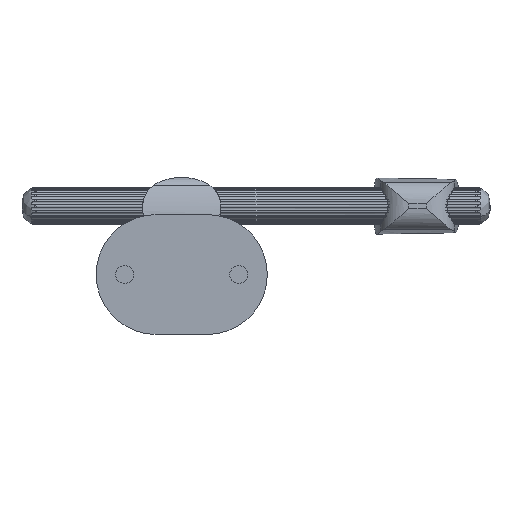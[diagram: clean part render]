
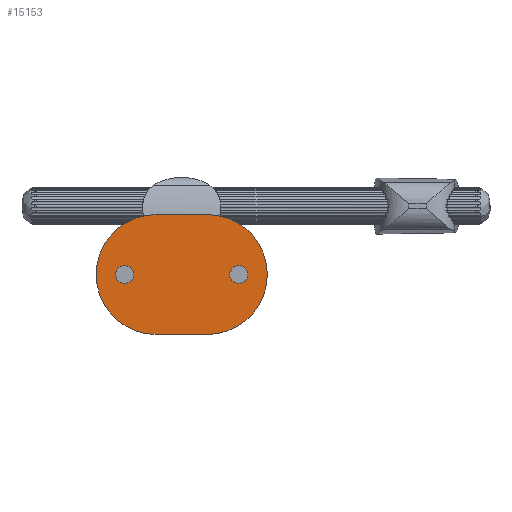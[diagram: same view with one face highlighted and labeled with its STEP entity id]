
A CAD part, front view. The second image highlights one B-rep face of the part: STEP entity #15153.
In plain terms, the highlighted planar face has unit normal (0, -1, 0).
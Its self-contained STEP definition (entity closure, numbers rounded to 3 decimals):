
#4215 = EDGE_LOOP ( 'NONE', ( #11610, #11717 ) ) ;
#4238 = EDGE_LOOP ( 'NONE', ( #11712, #11602 ) ) ;
#4245 = EDGE_LOOP ( 'NONE', ( #11682, #11688, #11708, #11716 ) ) ;
#4551 = AXIS2_PLACEMENT_3D ( 'NONE', #8647, #8648, #8649 ) ;
#4554 = AXIS2_PLACEMENT_3D ( 'NONE', #8641, #8642, #8643 ) ;
#4555 = AXIS2_PLACEMENT_3D ( 'NONE', #8634, #8635, #8636 ) ;
#4558 = AXIS2_PLACEMENT_3D ( 'NONE', #8630, #8631, #8632 ) ;
#5631 = CIRCLE ( 'NONE', #15723, 3.15 ) ;
#5637 = CIRCLE ( 'NONE', #16032, 3.15 ) ;
#6860 = CIRCLE ( 'NONE', #4558, 21. ) ;
#6872 = CIRCLE ( 'NONE', #4551, 3.15 ) ;
#6875 = LINE ( 'NONE', #8628, #6887 ) ;
#6877 = LINE ( 'NONE', #8621, #6879 ) ;
#6878 = CIRCLE ( 'NONE', #4554, 3.15 ) ;
#6879 = VECTOR ( 'NONE', #8616, 1000. ) ;
#6880 = CIRCLE ( 'NONE', #4555, 21. ) ;
#6887 = VECTOR ( 'NONE', #8629, 1000. ) ;
#7448 = CARTESIAN_POINT ( 'NONE',  ( 9., 0., -21. ) ) ;
#7451 = CARTESIAN_POINT ( 'NONE',  ( -9., 0., 21. ) ) ;
#7781 = CARTESIAN_POINT ( 'NONE',  ( 20., 0., 0. ) ) ;
#7782 = DIRECTION ( 'NONE',  ( 0., 1., 0. ) ) ;
#7783 = DIRECTION ( 'NONE',  ( 0., 0., -1. ) ) ;
#7791 = CARTESIAN_POINT ( 'NONE',  ( -20., 0., 0. ) ) ;
#7792 = DIRECTION ( 'NONE',  ( 0., 1., 0. ) ) ;
#7793 = DIRECTION ( 'NONE',  ( 0., 0., -1. ) ) ;
#8616 = DIRECTION ( 'NONE',  ( -1., 0., 0. ) ) ;
#8621 = CARTESIAN_POINT ( 'NONE',  ( 9., 0., 21. ) ) ;
#8628 = CARTESIAN_POINT ( 'NONE',  ( 9., 0., -21. ) ) ;
#8629 = DIRECTION ( 'NONE',  ( 1., 0., 0. ) ) ;
#8630 = CARTESIAN_POINT ( 'NONE',  ( -9., 0., 0. ) ) ;
#8631 = DIRECTION ( 'NONE',  ( 0., -1., 0. ) ) ;
#8632 = DIRECTION ( 'NONE',  ( 0., 0., -1. ) ) ;
#8634 = CARTESIAN_POINT ( 'NONE',  ( 9., 0., 0. ) ) ;
#8635 = DIRECTION ( 'NONE',  ( 0., -1., 0. ) ) ;
#8636 = DIRECTION ( 'NONE',  ( 0., 0., -1. ) ) ;
#8641 = CARTESIAN_POINT ( 'NONE',  ( 20., 0., 0. ) ) ;
#8642 = DIRECTION ( 'NONE',  ( 0., 1., 0. ) ) ;
#8643 = DIRECTION ( 'NONE',  ( 0., 0., -1. ) ) ;
#8647 = CARTESIAN_POINT ( 'NONE',  ( -20., 0., 0. ) ) ;
#8648 = DIRECTION ( 'NONE',  ( 0., 1., 0. ) ) ;
#8649 = DIRECTION ( 'NONE',  ( 0., 0., -1. ) ) ;
#8843 = CARTESIAN_POINT ( 'NONE',  ( 20., 0., 3.15 ) ) ;
#8849 = CARTESIAN_POINT ( 'NONE',  ( -20., 0., -3.15 ) ) ;
#8852 = CARTESIAN_POINT ( 'NONE',  ( 20., 0., -3.15 ) ) ;
#8853 = CARTESIAN_POINT ( 'NONE',  ( -20., 0., 3.15 ) ) ;
#8950 = CARTESIAN_POINT ( 'NONE',  ( 9., 0., 21. ) ) ;
#8968 = CARTESIAN_POINT ( 'NONE',  ( -9., 0., -21. ) ) ;
#9668 = EDGE_CURVE ( 'NONE', #14601, #14592, #5631, .T. ) ;
#9672 = EDGE_CURVE ( 'NONE', #14598, #14602, #5637, .T. ) ;
#10038 = FACE_OUTER_BOUND ( 'NONE', #4245, .T. ) ;
#10044 = FACE_BOUND ( 'NONE', #4238, .T. ) ;
#10048 = FACE_BOUND ( 'NONE', #4215, .T. ) ;
#10355 = DIRECTION ( 'NONE',  ( 0., -1., 0. ) ) ;
#10357 = CARTESIAN_POINT ( 'NONE',  ( 9., 0., -10.5 ) ) ;
#10359 = PLANE ( 'NONE',  #15656 ) ;
#10361 = DIRECTION ( 'NONE',  ( 0., 0., -1. ) ) ;
#11602 = ORIENTED_EDGE ( 'NONE', *, *, #15837, .T. ) ;
#11610 = ORIENTED_EDGE ( 'NONE', *, *, #9672, .T. ) ;
#11682 = ORIENTED_EDGE ( 'NONE', *, *, #15831, .T. ) ;
#11688 = ORIENTED_EDGE ( 'NONE', *, *, #15832, .T. ) ;
#11708 = ORIENTED_EDGE ( 'NONE', *, *, #15835, .T. ) ;
#11712 = ORIENTED_EDGE ( 'NONE', *, *, #9668, .T. ) ;
#11716 = ORIENTED_EDGE ( 'NONE', *, *, #15834, .T. ) ;
#11717 = ORIENTED_EDGE ( 'NONE', *, *, #15840, .T. ) ;
#14173 = VERTEX_POINT ( 'NONE', #7448 ) ;
#14177 = VERTEX_POINT ( 'NONE', #7451 ) ;
#14592 = VERTEX_POINT ( 'NONE', #8843 ) ;
#14598 = VERTEX_POINT ( 'NONE', #8849 ) ;
#14601 = VERTEX_POINT ( 'NONE', #8852 ) ;
#14602 = VERTEX_POINT ( 'NONE', #8853 ) ;
#14705 = VERTEX_POINT ( 'NONE', #8950 ) ;
#14723 = VERTEX_POINT ( 'NONE', #8968 ) ;
#15153 = ADVANCED_FACE ( 'NONE', ( #10038, #10048, #10044 ), #10359, .T. ) ;
#15656 = AXIS2_PLACEMENT_3D ( 'NONE', #10357, #10355, #10361 ) ;
#15723 = AXIS2_PLACEMENT_3D ( 'NONE', #7781, #7782, #7783 ) ;
#15831 = EDGE_CURVE ( 'NONE', #14705, #14177, #6877, .T. ) ;
#15832 = EDGE_CURVE ( 'NONE', #14177, #14723, #6860, .T. ) ;
#15834 = EDGE_CURVE ( 'NONE', #14173, #14705, #6880, .T. ) ;
#15835 = EDGE_CURVE ( 'NONE', #14723, #14173, #6875, .T. ) ;
#15837 = EDGE_CURVE ( 'NONE', #14592, #14601, #6878, .T. ) ;
#15840 = EDGE_CURVE ( 'NONE', #14602, #14598, #6872, .T. ) ;
#16032 = AXIS2_PLACEMENT_3D ( 'NONE', #7791, #7792, #7793 ) ;
